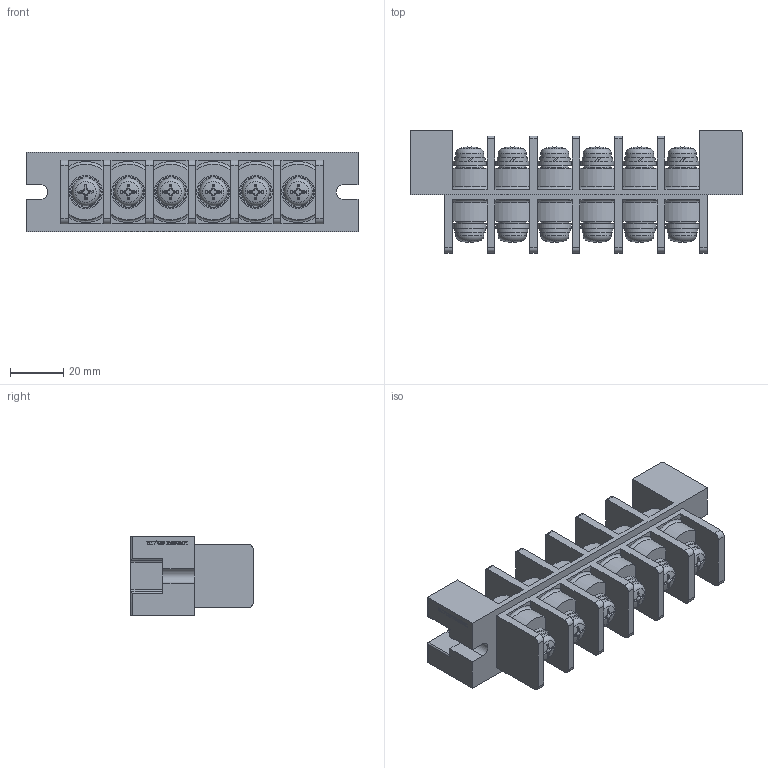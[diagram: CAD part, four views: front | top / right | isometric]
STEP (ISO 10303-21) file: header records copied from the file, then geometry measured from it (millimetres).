
FILE_DESCRIPTION(/* description */ ('Alibre Inc.'),/* implementation_level */ '2;1');
FILE_NAME(/* name */ 'export0',/* time_stamp */ '2016-01-14T19:22:17+09:00',/* author */ (''),/* organization */ (''),/* preprocessor_version */ 'ST-DEVELOPER v14',/* originating_system */ 'Alibre',/* authorisation */ '');
FILE_SCHEMA (('CONFIG_CONTROL_DESIGN'));
Length unit declared in the file: centimetre
Products named in the file (1): ID_1
Bounding box: 125 x 46 x 30 mm (x, y, z)
Volume: 79757.3 mm3; surface area: 33950.2 mm2
Topology: 1 solids, 19 shells, 864 faces, 2214 edges, 1459 vertices
Faces by surface type: plane 502, cylinder 178, cone 84, bspline 52, torus 36, sphere 12
Full cylindrical faces by diameter (mm): 4.55 x2, 6 x18, 10.5 x24, 10.75 x12, 12.5 x12
Entity records: 26094 total; most frequent: CARTESIAN_POINT 6644, ORIENTED_EDGE 4122, DIRECTION 3415, EDGE_CURVE 2061, VERTEX_POINT 1422, AXIS2_PLACEMENT_3D 1393, VECTOR 1125, LINE 1125
